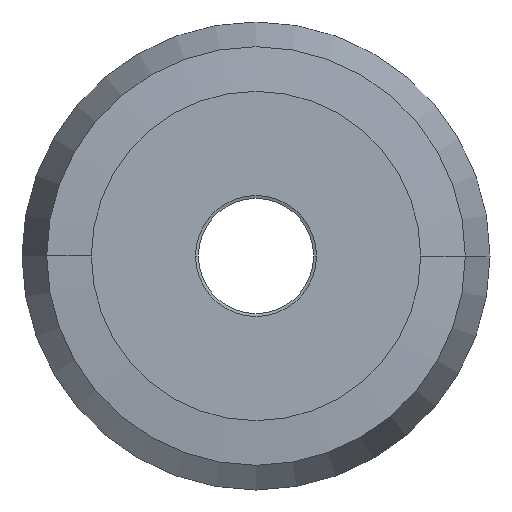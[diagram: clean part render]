
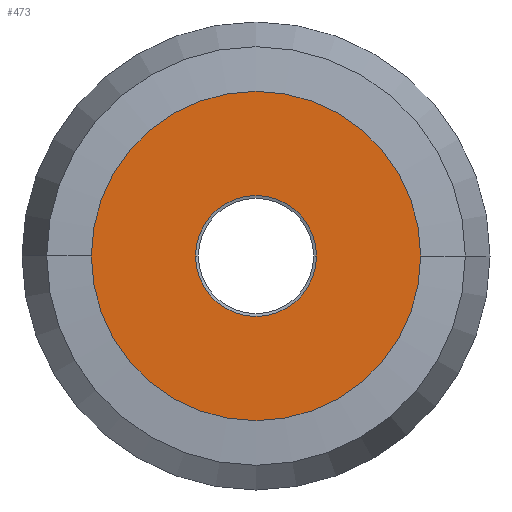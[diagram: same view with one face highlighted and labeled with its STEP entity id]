
A CAD part, front view. The second image highlights one B-rep face of the part: STEP entity #473.
In plain terms, the highlighted planar face has unit normal (0, -1, 0).
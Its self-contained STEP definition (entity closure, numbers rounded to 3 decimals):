
#2=CARTESIAN_POINT('',(0.,0.,0.));
#3=DIRECTION('',(0.,1.,0.));
#4=DIRECTION('',(1.,0.,0.));
#5=AXIS2_PLACEMENT_3D('',#2,#3,#4);
#7=CARTESIAN_POINT('',(0.,0.,0.));
#8=DIRECTION('',(0.,1.,0.));
#9=DIRECTION('',(-1.,0.,0.));
#10=AXIS2_PLACEMENT_3D('',#7,#8,#9);
#12=CARTESIAN_POINT('',(0.,0.,
0.));
#13=DIRECTION('',(0.,-1.,0.));
#14=DIRECTION('',(1.,0.,0.));
#15=AXIS2_PLACEMENT_3D('',#12,#13,#14);
#17=CARTESIAN_POINT('',(0.,0.,
0.));
#18=DIRECTION('',(0.,-1.,0.));
#19=DIRECTION('',(-1.,0.,0.));
#20=AXIS2_PLACEMENT_3D('',#17,#18,#19);
#372=CARTESIAN_POINT('',(8.4,0.,0.));
#373=CARTESIAN_POINT('',(-8.4,0.,0.));
#374=VERTEX_POINT('',#372);
#375=VERTEX_POINT('',#373);
#384=CARTESIAN_POINT('',(22.87,0.,
0.));
#385=CARTESIAN_POINT('',(-22.87,0.,
0.));
#386=VERTEX_POINT('',#384);
#387=VERTEX_POINT('',#385);
#456=CARTESIAN_POINT('',(0.,0.,0.));
#457=DIRECTION('',(0.,1.,0.));
#458=DIRECTION('',(1.,0.,0.));
#459=AXIS2_PLACEMENT_3D('',#456,#457,#458);
#460=PLANE('',#459);
#462=ORIENTED_EDGE('',*,*,#461,.F.);
#464=ORIENTED_EDGE('',*,*,#463,.F.);
#465=EDGE_LOOP('',(#462,#464));
#466=FACE_OUTER_BOUND('',#465,.F.);
#468=ORIENTED_EDGE('',*,*,#467,.F.);
#470=ORIENTED_EDGE('',*,*,#469,.F.);
#471=EDGE_LOOP('',(#468,#470));
#472=FACE_BOUND('',#471,.F.);
#473=ADVANCED_FACE('',(#466,#472),#460,.F.);
#6=CIRCLE('',#5,8.4);
#11=CIRCLE('',#10,8.4);
#16=CIRCLE('',#15,22.87);
#21=CIRCLE('',#20,22.87);
#461=EDGE_CURVE('',#386,#387,#16,.T.);
#463=EDGE_CURVE('',#387,#386,#21,.T.);
#467=EDGE_CURVE('',#374,#375,#6,.T.);
#469=EDGE_CURVE('',#375,#374,#11,.T.);
